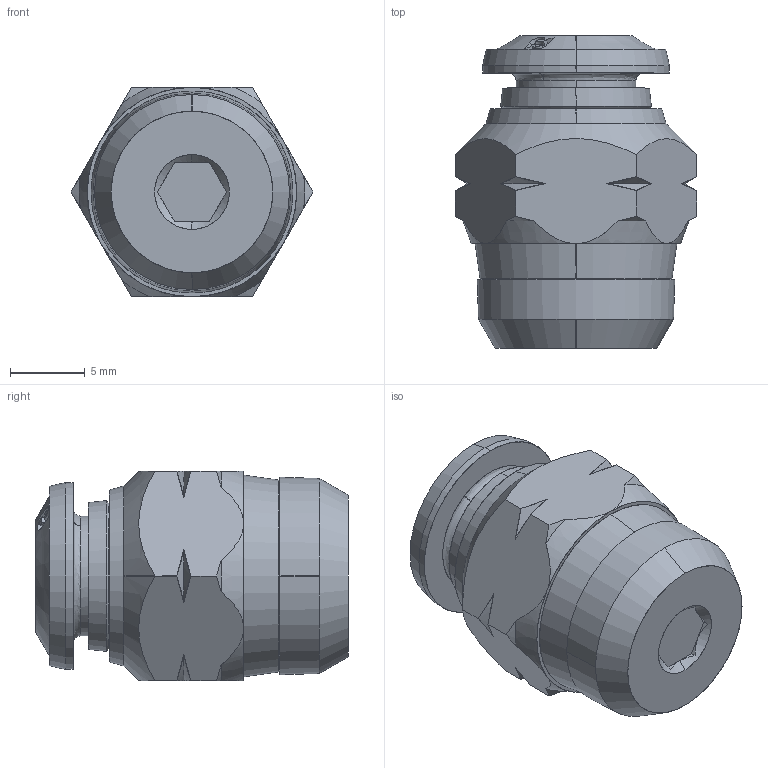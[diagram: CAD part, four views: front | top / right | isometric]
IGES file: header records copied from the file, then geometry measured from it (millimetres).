
Start section: SolidWorks IGES file using analytic representation for surfaces
Global section: file name: K:\Disegni Esecutivi\Alpha Technologies\Assiemi-87000\87000\87000_iges\8700000006A.IGS; native system: SolidWorks 2009; preprocessor: SolidWorks 2009; author: cad05; date: 091026.100411; units: millimetre
Bounding box: 16.17 x 20.9 x 14 mm (x, y, z)
Surface area: 1261.5 mm2 (no closed solid volume)
Topology: 0 solids, 0 shells, 150 faces, 1580 edges, 1580 vertices
Faces by surface type: bspline 80, revolution 70
